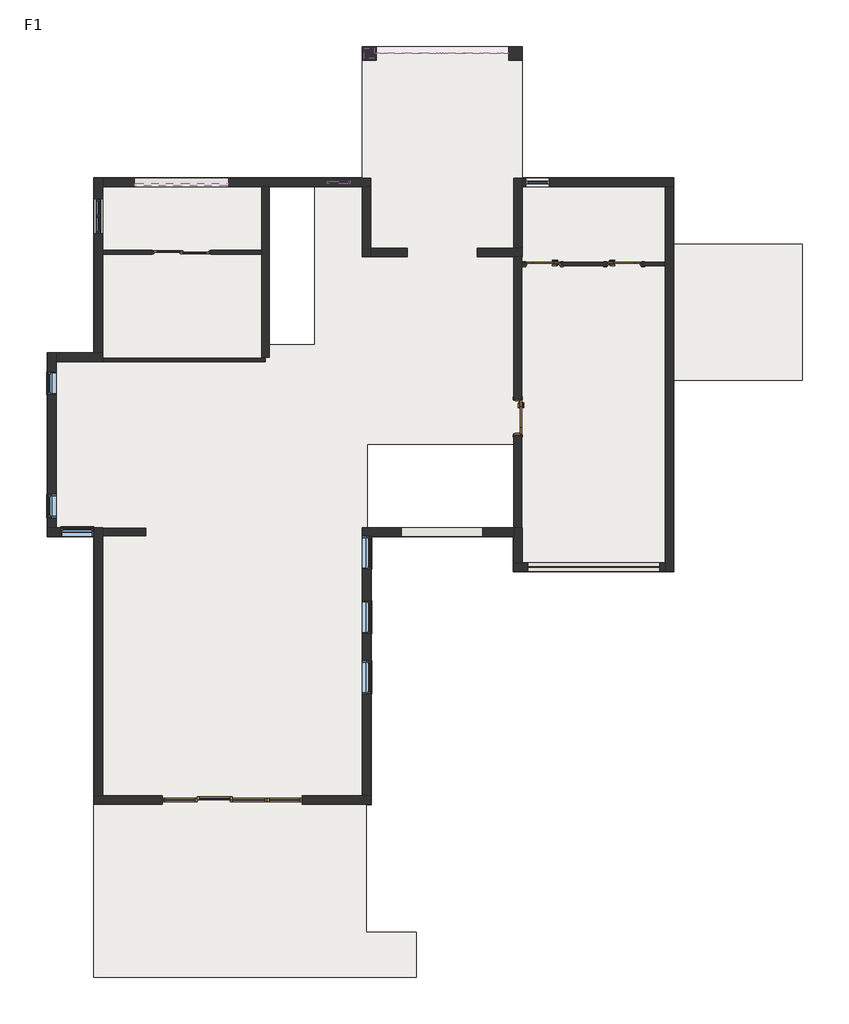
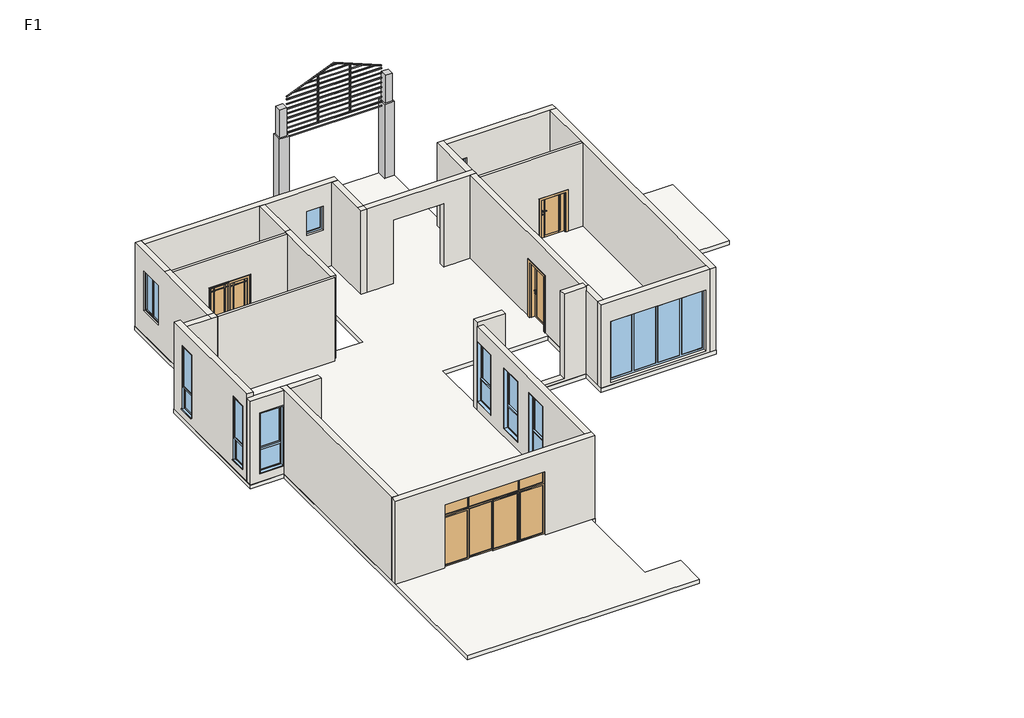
# One storey, incomplete: 22 walls, 11 windows, 5 doors, 2 columns, 2 proxies, 1 slab.
"""IFC4 building model written with IfcOpenShell, lengths in millimetres."""

from ifc_helpers import new_model, si_unit, frame, origin, origin_with_axes, place, context, project, spatial, polyline, outline, extrude, faceted_brep, transform, mapped, element, save
from components import specialty_equipment_41b99d19, specialty_equipment_643cab9b, column_69935251, door_0915_3157fd55, door_0915_0a5b4c04, door_1500_x_2100mm_4734d329, door_900_x_2100_mm_dda2772b, ym3627_ym3624_cbced519, window_d0687fa4, c0615_c0609_9743c050, c0615_c0615_013a5557, c0624_07807a0b, c0823_02c6a616, c0915_c0915_c0da6e5c, c3423_bdca7cff

model = new_model("IFC4")

# Units and contexts
model_context = context("Model", 3, world=origin())
ifc_project = project(units=[si_unit("LENGTHUNIT", "METRE", prefix="MILLI")], contexts=[model_context])

# Site, building, storey
site = spatial("IfcSite", under=ifc_project)
building = spatial("IfcBuilding", under=site)
storey = spatial("IfcBuildingStorey", under=building, Name="F1", Elevation=0.0)

# Proxies
placement = place(None, origin())
specialty_equipment_shape = specialty_equipment_41b99d19(model_context)
element("IfcBuildingElementProxy", 1, Name="小立柱 : 小立柱", ObjectType="小立柱 : 小立柱", at=placement, inside=storey, context=model_context, shape_type="MappedRepresentation", body=[
    mapped(specialty_equipment_shape, transform((0.0, 0.0, 0.0), x_axis=(1.0, 0.0, 0.0), y_axis=(0.0, 1.0, 0.0), z_axis=(0.0, 0.0, 1.0))),
])
specialty_equipment_2_shape = specialty_equipment_643cab9b(model_context)
element("IfcBuildingElementProxy", 2, Name="栅格 : 栅格", ObjectType="栅格 : 栅格", at=placement, inside=storey, context=model_context, shape_type="MappedRepresentation", body=[
    mapped(specialty_equipment_2_shape, transform((0.0, 0.0, 0.0), x_axis=(1.0, 0.0, 0.0), y_axis=(0.0, 1.0, 0.0), z_axis=(0.0, 0.0, 1.0))),
])

# Columns
column_shape = column_69935251(model_context)
element("IfcColumn", 3, ObjectType="矩形柱 : 350立柱", at=placement, inside=storey, context=model_context, shape_type="MappedRepresentation", body=[
    mapped(column_shape, transform((-9880.9782681, 3793.9713095, 0.0), x_axis=(1.0, 0.0, 0.0), y_axis=(0.0, 1.0, 0.0), z_axis=(0.0, 0.0, 1.0))),
])
element("IfcColumn", 4, ObjectType="矩形柱 : 350立柱", at=placement, inside=storey, context=model_context, shape_type="MappedRepresentation", body=[
    mapped(column_shape, transform((-6120.9782681, 3793.9713095, 0.0), x_axis=(1.0, 0.0, 0.0), y_axis=(0.0, 1.0, 0.0), z_axis=(0.0, 0.0, 1.0))),
])

# Doors
door_0915_shape = door_0915_3157fd55(model_context)
element("IfcDoor", 5, ObjectType="单扇平开门-木门 : 0915", at=placement, inside=storey, context=model_context, shape_type="MappedRepresentation", body=[
    mapped(door_0915_shape, transform((-3315.9782681, -1631.0286905, 0.0), x_axis=(1.0, 0.0, 0.0), y_axis=(0.0, 1.0, 0.0), z_axis=(0.0, 0.0, 1.0))),
])
door_0915_2_shape = door_0915_0a5b4c04(model_context)
element("IfcDoor", 6, ObjectType="单扇平开门-木门 : 0915", at=placement, inside=storey, context=model_context, shape_type="MappedRepresentation", body=[
    mapped(door_0915_2_shape, transform((-5405.9782681, -1631.0286905, 0.0), x_axis=(-1.0, 0.0, 0.0), y_axis=(0.0, -1.0, 0.0), z_axis=(0.0, 0.0, 1.0))),
])
door_1500_x_2100mm_shape = door_1500_x_2100mm_4734d329(model_context)
element("IfcDoor", 7, ObjectType="双扇推拉门 : 1500 x 2100mm", at=placement, inside=storey, context=model_context, shape_type="MappedRepresentation", body=[
    mapped(door_1500_x_2100mm_shape, transform((-14715.9782681, -1331.0286905, 0.0), x_axis=(-1.0, 0.0, 0.0), y_axis=(0.0, -1.0, 0.0), z_axis=(0.0, 0.0, 1.0))),
])
door_900_x_2100_mm_shape = door_900_x_2100_mm_dda2772b(model_context)
element("IfcDoor", 8, ObjectType="单扇平开门-木门 : 900 x 2100 mm", at=placement, inside=storey, context=model_context, shape_type="MappedRepresentation", body=[
    mapped(door_900_x_2100_mm_shape, transform((-6055.9782681, -5571.0286905, 0.0), x_axis=(0.0, -1.0, 0.0), y_axis=(1.0, 0.0, 0.0), z_axis=(0.0, 0.0, 1.0))),
])
ym3627_ym3624_shape = ym3627_ym3624_cbced519(model_context)
element("IfcDoor", 9, ObjectType="YM3627 : YM3624", at=placement, inside=storey, context=model_context, shape_type="MappedRepresentation", body=[
    mapped(ym3627_ym3624_shape, transform((-13405.9782681, -15431.0286905, 0.0), x_axis=(-1.0, 0.0, 0.0), y_axis=(0.0, -1.0, 0.0), z_axis=(0.0, 0.0, 1.0))),
])

# Slab
element("IfcSlab", 10, ObjectType="常规 - 150mm", at=placement, inside=storey, context=model_context, shape_type="SweptSolid", body=[
    extrude(outline(polyline([(-16975.9782681, 588.9713095), (-10055.9782681, 588.9713095), (-10055.9782681, 3968.9713095), (-5945.9782681, 3968.9713095), (-5945.9782681, 588.9713095), (-2035.9782681, 588.9713095), (-2035.9782681, -1118.8242174), (1264.0217319, -1118.8242174), (1264.0217319, -4618.8242174), (-2035.9782681, -4618.8242174), (-2035.9782681, -9551.0286905), (-6175.9782681, -9551.0286905), (-6175.9782681, -8651.0286905), (-9835.9782681, -8651.0286905), (-9835.9782681, -15551.0286905), (-9955.9782681, -15551.0286905), (-9955.9782681, -18831.0286905), (-8675.9782681, -18831.0286905), (-8675.9782681, -20001.0286905), (-16975.9782681, -20001.0286905), (-16975.9782681, -8651.0286905), (-18175.9782681, -8651.0286905), (-18175.9782681, -3911.0286905), (-16975.9782681, -3911.0286905), (-16975.9782681, 588.9713095)]), holes=[polyline([(-6175.9782681, -6281.0286905), (-9925.9782681, -6281.0286905), (-9925.9782681, -8411.0286905), (-6175.9782681, -8411.0286905), (-6175.9782681, -6281.0286905)]), polyline([(-12455.9782681, -3691.0286905), (-11291.3782681, -3691.0286905), (-11291.3782681, 358.9713095), (-12455.9782681, 358.9713095), (-12455.9782681, -3691.0286905)])]), frame((0.0, 0.0, -150.0), z_axis=(0.0, 0.0, 1.0), x_axis=(1.0, 0.0, 0.0)), (0.0, 0.0, 1.0), 150.0),
])

# Walls
element("IfcWall", 11, ObjectType="F1楼层", at=placement, inside=storey, context=model_context, shape_type="Brep", body=[
    faceted_brep([(-16965.9782681, -15321.0286905, 0.0), (-16965.9782681, -15321.0286905, 3150.0), (-16745.9782681, -15321.0286905, 3150.0), (-10065.9782681, -15321.0286905, 3150.0), (-9845.9782681, -15321.0286905, 3150.0), (-9845.9782681, -15321.0286905, 0.0), (-10065.9782681, -15321.0286905, 0.0), (-11605.9782681, -15321.0286905, 0.0), (-11605.9782681, -15321.0286905, 2400.0), (-15205.9782681, -15321.0286905, 2400.0), (-15205.9782681, -15321.0286905, 0.0), (-16745.9782681, -15321.0286905, 0.0), (-16965.9782681, -15541.0286905, 3150.0), (-16965.9782681, -15541.0286905, 0.0), (-15205.9782681, -15541.0286905, 0.0), (-15205.9782681, -15541.0286905, 2400.0), (-11605.9782681, -15541.0286905, 2400.0), (-11605.9782681, -15541.0286905, 0.0), (-9845.9782681, -15541.0286905, 0.0), (-9845.9782681, -15541.0286905, 3150.0)], [[[0, 1, 2, 3, 4, 5, 6, 7, 8, 9, 10, 11]], [[12, 13, 14, 15, 16, 17, 18, 19]], [[13, 0, 11, 10, 14]], [[5, 18, 17, 7, 6]], [[1, 0, 13, 12]], [[5, 4, 19, 18]], [[16, 8, 7, 17]], [[8, 16, 15, 9]], [[9, 15, 14, 10]], [[4, 3, 2, 1, 12, 19]]]),
])
element("IfcWall", 12, ObjectType="F1楼层", at=placement, inside=storey, context=model_context, shape_type="Brep", body=[
    faceted_brep([(-16745.9782681, -15321.0286905, 0.0), (-16745.9782681, -8631.0286905, 0.0), (-16745.9782681, -8431.0286905, 0.0), (-16745.9782681, -8421.0286905, 0.0), (-16745.9782681, -8421.0286905, 3150.0), (-16745.9782681, -8431.0286905, 3150.0), (-16745.9782681, -8631.0286905, 3150.0), (-16745.9782681, -15321.0286905, 3150.0), (-16965.9782681, -15321.0286905, 0.0), (-16965.9782681, -15321.0286905, 3150.0), (-16965.9782681, -8641.0286905, 3150.0), (-16965.9782681, -8421.0286905, 3150.0), (-16965.9782681, -8421.0286905, 0.0), (-16965.9782681, -8641.0286905, 0.0)], [[[0, 1, 2, 3, 4, 5, 6, 7]], [[8, 9, 10, 11, 12, 13]], [[3, 2, 1, 0, 8, 13, 12]], [[0, 7, 9, 8]], [[4, 3, 12, 11]], [[7, 6, 5, 4, 11, 10, 9]]]),
])
element("IfcWall", 13, ObjectType="F1楼层", at=placement, inside=storey, context=model_context, shape_type="Brep", body=[
    faceted_brep([(-16965.9782681, -8421.0286905, 0.0), (-17945.9782681, -8421.0286905, 0.0), (-18165.9782681, -8421.0286905, 0.0), (-18165.9782681, -8421.0286905, 3150.0), (-16975.9782681, -8421.0286905, 3150.0), (-16965.9782681, -8421.0286905, 3150.0), (-16975.9782681, -8421.0286905, 2600.0), (-17825.9782681, -8421.0286905, 2600.0), (-17825.9782681, -8421.0286905, 300.0), (-16975.9782681, -8421.0286905, 300.0), (-16965.9782681, -8641.0286905, 0.0), (-16965.9782681, -8641.0286905, 3150.0), (-16975.9782681, -8641.0286905, 3150.0), (-18165.9782681, -8641.0286905, 3150.0), (-18165.9782681, -8641.0286905, 0.0), (-16975.9782681, -8641.0286905, 2600.0), (-16975.9782681, -8641.0286905, 300.0), (-17825.9782681, -8641.0286905, 300.0), (-17825.9782681, -8641.0286905, 2600.0)], [[[0, 1, 2, 3, 4, 5], [6, 7, 8, 9]], [[10, 11, 12, 13, 14], [15, 16, 17, 18]], [[2, 1, 0, 10, 14]], [[0, 5, 11, 10]], [[3, 2, 14, 13]], [[16, 15, 6, 9]], [[17, 16, 9, 8]], [[18, 17, 8, 7]], [[15, 18, 7, 6]], [[4, 3, 13, 12]], [[5, 4, 12, 11]]]),
])
element("IfcWall", 14, ObjectType="F1楼层", at=placement, inside=storey, context=model_context, shape_type="Brep", body=[
    faceted_brep([(-17945.9782681, -8421.0286905, 0.0), (-17945.9782681, -4141.0286905, 0.0), (-17945.9782681, -3921.0286905, 0.0), (-17945.9782681, -3921.0286905, 3150.0), (-17945.9782681, -3921.0286905, 3300.0), (-17945.9782681, -8421.0286905, 3300.0), (-17945.9782681, -4401.0286905, 2700.0), (-17945.9782681, -4401.0286905, 300.0), (-17945.9782681, -5001.0286905, 300.0), (-17945.9782681, -5001.0286905, 2700.0), (-17945.9782681, -7561.0286905, 2700.0), (-17945.9782681, -7561.0286905, 300.0), (-17945.9782681, -8161.0286905, 300.0), (-17945.9782681, -8161.0286905, 2700.0), (-18165.9782681, -8421.0286905, 0.0), (-18165.9782681, -8421.0286905, 3150.0), (-18165.9782681, -8421.0286905, 3300.0), (-18165.9782681, -3921.0286905, 3300.0), (-18165.9782681, -3921.0286905, 0.0), (-18165.9782681, -4401.0286905, 2700.0), (-18165.9782681, -5001.0286905, 2700.0), (-18165.9782681, -5001.0286905, 300.0), (-18165.9782681, -4401.0286905, 300.0), (-18165.9782681, -7561.0286905, 2700.0), (-18165.9782681, -8161.0286905, 2700.0), (-18165.9782681, -8161.0286905, 300.0), (-18165.9782681, -7561.0286905, 300.0)], [[[0, 1, 2, 3, 4, 5], [6, 7, 8, 9], [10, 11, 12, 13]], [[14, 15, 16, 17, 18], [19, 20, 21, 22], [23, 24, 25, 26]], [[2, 1, 0, 14, 18]], [[5, 4, 17, 16]], [[0, 5, 16, 15, 14]], [[4, 3, 2, 18, 17]], [[7, 6, 19, 22]], [[8, 7, 22, 21]], [[9, 8, 21, 20]], [[6, 9, 20, 19]], [[11, 10, 23, 26]], [[12, 11, 26, 25]], [[13, 12, 25, 24]], [[10, 13, 24, 23]]]),
])
element("IfcWall", 15, ObjectType="F1楼层", at=placement, inside=storey, context=model_context, shape_type="Brep", body=[
    faceted_brep([(-17945.9782681, -4141.0286905, 0.0), (-16745.9782681, -4141.0286905, 0.0), (-16745.9782681, -4141.0286905, 3150.0), (-16975.9782681, -4141.0286905, 3150.0), (-17945.9782681, -4141.0286905, 3150.0), (-17945.9782681, -3921.0286905, 0.0), (-17945.9782681, -3921.0286905, 3150.0), (-16975.9782681, -3921.0286905, 3150.0), (-16965.9782681, -3921.0286905, 3150.0), (-16745.9782681, -3921.0286905, 3150.0), (-16745.9782681, -3921.0286905, 0.0), (-16965.9782681, -3921.0286905, 0.0), (-16745.9782681, -4051.0286905, 0.0), (-16745.9782681, -4051.0286905, 3150.0)], [[[0, 1, 2, 3, 4]], [[5, 6, 7, 8, 9, 10, 11]], [[1, 0, 5, 11, 10, 12]], [[0, 4, 6, 5]], [[2, 1, 12, 10, 9, 13]], [[4, 3, 7, 6]], [[3, 2, 13, 9, 8, 7]]]),
])
element("IfcWall", 16, ObjectType="F1楼层", at=placement, inside=storey, context=model_context, shape_type="Brep", body=[
    faceted_brep([(-16745.9782681, -3921.0286905, 0.0), (-16745.9782681, -1381.0286905, 0.0), (-16745.9782681, -1281.0286905, 0.0), (-16745.9782681, 358.9713095, 0.0), (-16745.9782681, 578.9713095, 0.0), (-16745.9782681, 578.9713095, 3150.0), (-16745.9782681, 358.9713095, 3150.0), (-16745.9782681, -1221.0286905, 3150.0), (-16745.9782681, -1281.0286905, 3150.0), (-16745.9782681, -1381.0286905, 3150.0), (-16745.9782681, -3921.0286905, 3150.0), (-16745.9782681, -851.0286905, 900.0), (-16745.9782681, -851.0286905, 2400.0), (-16745.9782681, 48.9713095, 2400.0), (-16745.9782681, 48.9713095, 900.0), (-16965.9782681, -3921.0286905, 0.0), (-16965.9782681, -3921.0286905, 3150.0), (-16965.9782681, -1221.0286905, 3150.0), (-16965.9782681, 578.9713095, 3150.0), (-16965.9782681, 578.9713095, 0.0), (-16965.9782681, -851.0286905, 900.0), (-16965.9782681, 48.9713095, 900.0), (-16965.9782681, 48.9713095, 2400.0), (-16965.9782681, -851.0286905, 2400.0)], [[[0, 1, 2, 3, 4, 5, 6, 7, 8, 9, 10], [11, 12, 13, 14]], [[15, 16, 17, 18, 19], [20, 21, 22, 23]], [[4, 3, 2, 1, 0, 15, 19]], [[0, 10, 16, 15]], [[5, 4, 19, 18]], [[12, 11, 20, 23]], [[13, 12, 23, 22]], [[14, 13, 22, 21]], [[11, 14, 21, 20]], [[7, 6, 5, 18, 17]], [[10, 9, 8, 7, 17, 16]]]),
])
element("IfcWall", 17, ObjectType="F1楼层", at=placement, inside=storey, context=model_context, shape_type="Brep", body=[
    faceted_brep([(-16745.9782681, 358.9713095, 0.0), (-12655.9782681, 358.9713095, 0.0), (-12455.9782681, 358.9713095, 0.0), (-10065.9782681, 358.9713095, 0.0), (-9845.9782681, 358.9713095, 0.0), (-9845.9782681, 358.9713095, 3150.0), (-10065.9782681, 358.9713095, 3150.0), (-12455.9782681, 358.9713095, 3150.0), (-12655.9782681, 358.9713095, 3150.0), (-16745.9782681, 358.9713095, 3150.0), (-10965.9782681, 358.9713095, 1450.0), (-10965.9782681, 358.9713095, 2350.0), (-10365.9782681, 358.9713095, 2350.0), (-10365.9782681, 358.9713095, 1450.0), (-13515.9782681, 358.9713095, 1200.0), (-15915.9782681, 358.9713095, 1200.0), (-15915.9782681, 358.9713095, 1800.0), (-13515.9782681, 358.9713095, 1800.0), (-16745.9782681, 578.9713095, 0.0), (-16745.9782681, 578.9713095, 3150.0), (-9845.9782681, 578.9713095, 3150.0), (-9845.9782681, 578.9713095, 0.0), (-10965.9782681, 578.9713095, 1450.0), (-10365.9782681, 578.9713095, 1450.0), (-10365.9782681, 578.9713095, 2350.0), (-10965.9782681, 578.9713095, 2350.0), (-13515.9782681, 578.9713095, 1200.0), (-13515.9782681, 578.9713095, 1800.0), (-15915.9782681, 578.9713095, 1800.0), (-15915.9782681, 578.9713095, 1200.0)], [[[0, 1, 2, 3, 4, 5, 6, 7, 8, 9], [10, 11, 12, 13], [14, 15, 16, 17]], [[18, 19, 20, 21], [22, 23, 24, 25], [26, 27, 28, 29]], [[4, 3, 2, 1, 0, 18, 21]], [[9, 8, 7, 6, 5, 20, 19]], [[0, 9, 19, 18]], [[5, 4, 21, 20]], [[11, 10, 22, 25]], [[12, 11, 25, 24]], [[13, 12, 24, 23]], [[10, 13, 23, 22]], [[27, 26, 14, 17]], [[28, 27, 17, 16]], [[29, 28, 16, 15]], [[26, 29, 15, 14]]]),
])
element("IfcWall", 18, ObjectType="F1楼层", at=placement, inside=storey, context=model_context, shape_type="Brep", body=[
    faceted_brep([(-10065.9782681, 358.9713095, 0.0), (-10065.9782681, -1441.0286905, 0.0), (-10065.9782681, -1441.0286905, 3150.0), (-10065.9782681, -1221.0286905, 3150.0), (-10065.9782681, 358.9713095, 3150.0), (-9845.9782681, 358.9713095, 0.0), (-9845.9782681, 358.9713095, 3150.0), (-9845.9782681, -1221.0286905, 3150.0), (-9845.9782681, -1441.0286905, 3150.0), (-9845.9782681, -1441.0286905, 0.0), (-9845.9782681, -1221.0286905, 0.0)], [[[0, 1, 2, 3, 4]], [[5, 6, 7, 8, 9, 10]], [[1, 0, 5, 10, 9]], [[0, 4, 6, 5]], [[2, 1, 9, 8]], [[4, 3, 7, 6]], [[3, 2, 8, 7]]]),
])
element("IfcWall", 19, ObjectType="F1楼层", at=placement, inside=storey, context=model_context, shape_type="Brep", body=[
    faceted_brep([(-9845.9782681, -1441.0286905, 3150.0), (-9845.9782681, -1441.0286905, 0.0), (-8905.9782681, -1441.0286905, 0.0), (-8905.9782681, -1441.0286905, 2400.0), (-7105.9782681, -1441.0286905, 2400.0), (-7105.9782681, -1441.0286905, 0.0), (-6155.9782681, -1441.0286905, 0.0), (-5955.9782681, -1441.0286905, 0.0), (-5945.9782681, -1441.0286905, 0.0), (-5945.9782681, -1441.0286905, 3150.0), (-5955.9782681, -1441.0286905, 3150.0), (-6155.9782681, -1441.0286905, 3150.0), (-9845.9782681, -1221.0286905, 0.0), (-9845.9782681, -1221.0286905, 3150.0), (-6175.9782681, -1221.0286905, 3150.0), (-6165.9782681, -1221.0286905, 3150.0), (-5945.9782681, -1221.0286905, 3150.0), (-5945.9782681, -1221.0286905, 0.0), (-6165.9782681, -1221.0286905, 0.0), (-7105.9782681, -1221.0286905, 0.0), (-7105.9782681, -1221.0286905, 2400.0), (-8905.9782681, -1221.0286905, 2400.0), (-8905.9782681, -1221.0286905, 0.0)], [[[0, 1, 2, 3, 4, 5, 6, 7, 8, 9, 10, 11]], [[12, 13, 14, 15, 16, 17, 18, 19, 20, 21, 22]], [[1, 12, 22, 2]], [[17, 8, 7, 6, 5, 19, 18]], [[1, 0, 13, 12]], [[9, 8, 17, 16]], [[4, 20, 19, 5]], [[20, 4, 3, 21]], [[21, 3, 2, 22]], [[13, 0, 11, 10, 9, 16, 15, 14]]]),
])
element("IfcWall", 20, ObjectType="F1楼层", at=placement, inside=storey, context=model_context, shape_type="Brep", body=[
    faceted_brep([(-5945.9782681, -1221.0286905, 0.0), (-5945.9782681, 358.9713095, 0.0), (-5945.9782681, 578.9713095, 0.0), (-5945.9782681, 578.9713095, 3150.0), (-5945.9782681, 358.9713095, 3150.0), (-5945.9782681, -1221.0286905, 3150.0), (-6165.9782681, -1221.0286905, 0.0), (-6165.9782681, -1221.0286905, 3150.0), (-6165.9782681, 578.9713095, 3150.0), (-6165.9782681, 578.9713095, 0.0)], [[[0, 1, 2, 3, 4, 5]], [[6, 7, 8, 9]], [[2, 1, 0, 6, 9]], [[0, 5, 7, 6]], [[3, 2, 9, 8]], [[5, 4, 3, 8, 7]]]),
])
element("IfcWall", 21, ObjectType="F1楼层", at=placement, inside=storey, context=model_context, shape_type="Brep", body=[
    faceted_brep([(-5945.9782681, 358.9713095, 0.0), (-2265.9782681, 358.9713095, 0.0), (-2045.9782681, 358.9713095, 0.0), (-2045.9782681, 358.9713095, 3150.0), (-2265.9782681, 358.9713095, 3150.0), (-5945.9782681, 358.9713095, 3150.0), (-5245.9782681, 358.9713095, 2400.0), (-5245.9782681, 358.9713095, 900.0), (-5845.9782681, 358.9713095, 900.0), (-5845.9782681, 358.9713095, 2400.0), (-2045.9782681, 578.9713095, 0.0), (-5945.9782681, 578.9713095, 0.0), (-5945.9782681, 578.9713095, 3150.0), (-2045.9782681, 578.9713095, 3150.0), (-5245.9782681, 578.9713095, 900.0), (-5245.9782681, 578.9713095, 2400.0), (-5845.9782681, 578.9713095, 2400.0), (-5845.9782681, 578.9713095, 900.0)], [[[0, 1, 2, 3, 4, 5], [6, 7, 8, 9]], [[10, 11, 12, 13], [14, 15, 16, 17]], [[2, 1, 0, 11, 10]], [[0, 5, 12, 11]], [[3, 2, 10, 13]], [[5, 4, 3, 13, 12]], [[14, 7, 6, 15]], [[16, 9, 8, 17]], [[7, 14, 17, 8]], [[9, 16, 15, 6]]]),
])
element("IfcWall", 22, ObjectType="F1楼层", at=placement, inside=storey, context=model_context, shape_type="Brep", body=[
    faceted_brep([(-2265.9782681, 358.9713095, 0.0), (-2265.9782681, -1581.0286905, 0.0), (-2265.9782681, -1681.0286905, 0.0), (-2265.9782681, -9321.0286905, 0.0), (-2265.9782681, -9541.0286905, 0.0), (-2265.9782681, -9541.0286905, 3150.0), (-2265.9782681, -9321.0286905, 3150.0), (-2265.9782681, -1681.0286905, 3150.0), (-2265.9782681, -1581.0286905, 3150.0), (-2265.9782681, 358.9713095, 3150.0), (-2045.9782681, 358.9713095, 0.0), (-2045.9782681, 358.9713095, 3150.0), (-2045.9782681, -9541.0286905, 3150.0), (-2045.9782681, -9541.0286905, 0.0)], [[[0, 1, 2, 3, 4, 5, 6, 7, 8, 9]], [[10, 11, 12, 13]], [[4, 3, 2, 1, 0, 10, 13]], [[0, 9, 11, 10]], [[5, 4, 13, 12]], [[9, 8, 7, 6, 5, 12, 11]]]),
])
element("IfcWall", 23, ObjectType="F1楼层", at=placement, inside=storey, context=model_context, shape_type="Brep", body=[
    faceted_brep([(-2265.9782681, -9321.0286905, 0.0), (-5945.9782681, -9321.0286905, 0.0), (-6165.9782681, -9321.0286905, 0.0), (-6165.9782681, -9321.0286905, 3150.0), (-5945.9782681, -9321.0286905, 3150.0), (-2265.9782681, -9321.0286905, 3150.0), (-5805.9782681, -9321.0286905, 2400.0), (-5805.9782681, -9321.0286905, 100.0), (-2405.9782681, -9321.0286905, 100.0), (-2405.9782681, -9321.0286905, 2400.0), (-6165.9782681, -9541.0286905, 0.0), (-2265.9782681, -9541.0286905, 0.0), (-2265.9782681, -9541.0286905, 3150.0), (-6165.9782681, -9541.0286905, 3150.0), (-5805.9782681, -9541.0286905, 100.0), (-5805.9782681, -9541.0286905, 2400.0), (-2405.9782681, -9541.0286905, 2400.0), (-2405.9782681, -9541.0286905, 100.0)], [[[0, 1, 2, 3, 4, 5], [6, 7, 8, 9]], [[10, 11, 12, 13], [14, 15, 16, 17]], [[2, 1, 0, 11, 10]], [[0, 5, 12, 11]], [[3, 2, 10, 13]], [[14, 7, 6, 15]], [[15, 6, 9, 16]], [[16, 9, 8, 17]], [[7, 14, 17, 8]], [[5, 4, 3, 13, 12]]]),
])
element("IfcWall", 24, ObjectType="F1楼层", at=placement, inside=storey, context=model_context, shape_type="Brep", body=[
    faceted_brep([(-5945.9782681, -9321.0286905, 0.0), (-5945.9782681, -8421.0286905, 0.0), (-5945.9782681, -8421.0286905, 3150.0), (-5945.9782681, -9321.0286905, 3150.0), (-6165.9782681, -9321.0286905, 0.0), (-6165.9782681, -9321.0286905, 3150.0), (-6165.9782681, -8421.0286905, 3150.0), (-6165.9782681, -8421.0286905, 0.0), (-6165.9782681, -8641.0286905, 0.0), (-6155.9782681, -8421.0286905, 0.0), (-5955.9782681, -8421.0286905, 0.0), (-6155.9782681, -8421.0286905, 3150.0), (-5955.9782681, -8421.0286905, 3150.0)], [[[0, 1, 2, 3]], [[4, 5, 6, 7, 8]], [[1, 0, 4, 8, 7, 9, 10]], [[0, 3, 5, 4]], [[2, 1, 10, 9, 7, 6, 11, 12]], [[3, 2, 12, 11, 6, 5]]]),
])
element("IfcWall", 25, ObjectType="F1楼层", at=placement, inside=storey, context=model_context, shape_type="Brep", body=[
    faceted_brep([(-6165.9782681, -8421.0286905, 0.0), (-10065.9782681, -8421.0286905, 0.0), (-10065.9782681, -8421.0286905, 3300.0), (-9055.9782681, -8421.0286905, 3300.0), (-9055.9782681, -8421.0286905, 100.0), (-6955.9782681, -8421.0286905, 100.0), (-6955.9782681, -8421.0286905, 3300.0), (-6165.9782681, -8421.0286905, 3300.0), (-6165.9782681, -8421.0286905, 3150.0), (-6165.9782681, -8641.0286905, 0.0), (-6165.9782681, -8641.0286905, 3300.0), (-6955.9782681, -8641.0286905, 3300.0), (-6955.9782681, -8641.0286905, 100.0), (-9055.9782681, -8641.0286905, 100.0), (-9055.9782681, -8641.0286905, 3300.0), (-10065.9782681, -8641.0286905, 3300.0), (-10065.9782681, -8641.0286905, 3150.0), (-10065.9782681, -8641.0286905, 2600.0), (-10065.9782681, -8641.0286905, 300.0), (-10065.9782681, -8641.0286905, 0.0), (-9845.9782681, -8641.0286905, 0.0)], [[[0, 1, 2, 3, 4, 5, 6, 7, 8]], [[9, 10, 11, 12, 13, 14, 15, 16, 17, 18, 19, 20]], [[0, 8, 7, 10, 9]], [[2, 1, 19, 18, 17, 16, 15]], [[1, 0, 9, 20, 19]], [[3, 2, 15, 14]], [[4, 3, 14, 13]], [[5, 4, 13, 12]], [[6, 5, 12, 11]], [[7, 6, 11, 10]]]),
])
element("IfcWall", 26, ObjectType="F1楼层", at=placement, inside=storey, context=model_context, shape_type="SweptSolid", body=[
    extrude(outline(polyline([(-8641.0286905, 3150.0), (-8641.0286905, 2600.0), (-9491.0286905, 2600.0), (-9491.0286905, 300.0), (-8641.0286905, 300.0), (-8641.0286905, 0.0), (-15321.0286905, 0.0), (-15321.0286905, 3150.0), (-8641.0286905, 3150.0)]), holes=[polyline([(-12701.0286905, 2600.0), (-12701.0286905, 300.0), (-11851.0286905, 300.0), (-11851.0286905, 2600.0), (-12701.0286905, 2600.0)]), polyline([(-11151.0286905, 2600.0), (-11151.0286905, 300.0), (-10301.0286905, 300.0), (-10301.0286905, 2600.0), (-11151.0286905, 2600.0)])]), frame((-10065.9782681, 0.0, 0.0), z_axis=(1.0, 0.0, 0.0), x_axis=(0.0, 1.0, 0.0)), (0.0, 0.0, 1.0), 220.0),
])
element("IfcWall", 27, ObjectType="常规 - 200mm", at=placement, inside=storey, context=model_context, shape_type="Brep", body=[
    faceted_brep([(-12655.9782681, 358.9713095, 0.0), (-12655.9782681, -1281.0286905, 0.0), (-12655.9782681, -1381.0286905, 0.0), (-12655.9782681, -4031.0286905, 0.0), (-12655.9782681, -4031.0286905, 3150.0), (-12655.9782681, -1381.0286905, 3150.0), (-12655.9782681, -1281.0286905, 3150.0), (-12655.9782681, -1221.0286905, 3150.0), (-12655.9782681, 358.9713095, 3150.0), (-12455.9782681, 358.9713095, 0.0), (-12455.9782681, 358.9713095, 3150.0), (-12455.9782681, -1221.0286905, 3150.0), (-12455.9782681, -4031.0286905, 3150.0), (-12455.9782681, -4031.0286905, 0.0)], [[[0, 1, 2, 3, 4, 5, 6, 7, 8]], [[9, 10, 11, 12, 13]], [[3, 2, 1, 0, 9, 13]], [[4, 3, 13, 12]], [[0, 8, 10, 9]], [[8, 7, 11, 10]], [[7, 6, 5, 4, 12, 11]]]),
])
element("IfcWall", 28, ObjectType="常规 - 200mm", at=placement, inside=storey, context=model_context, shape_type="SweptSolid", body=[
    extrude(outline(polyline([(-16745.9782681, -8431.0286905), (-15635.9782681, -8431.0286905), (-15635.9782681, -8631.0286905), (-16745.9782681, -8631.0286905), (-16745.9782681, -8431.0286905)])), origin_with_axes(), (0.0, 0.0, 1.0), 3150.0),
])
element("IfcWall", 29, ObjectType="常规 - 100mm 砌体", at=placement, inside=storey, context=model_context, shape_type="SweptSolid", body=[
    extrude(outline(polyline([(3150.0, -16745.9782681), (0.0, -16745.9782681), (0.0, -15465.9782681), (2100.0, -15465.9782681), (2100.0, -13965.9782681), (0.0, -13965.9782681), (0.0, -12655.9782681), (3150.0, -12655.9782681), (3150.0, -16745.9782681)])), frame((0.0, -1381.0286905, 0.0), z_axis=(0.0, 1.0, 0.0), x_axis=(0.0, 0.0, 1.0)), (0.0, 0.0, 1.0), 100.0),
])
element("IfcWall", 30, ObjectType="常规 - 100mm 砌体", at=placement, inside=storey, context=model_context, shape_type="Brep", body=[
    faceted_brep([(-16745.9782681, -4151.0286905, 0.0), (-12555.9782681, -4151.0286905, 0.0), (-12555.9782681, -4151.0286905, 3150.0), (-16745.9782681, -4151.0286905, 3150.0), (-16745.9782681, -4051.0286905, 0.0), (-16745.9782681, -4051.0286905, 3150.0), (-12555.9782681, -4051.0286905, 3150.0), (-12555.9782681, -4051.0286905, 0.0), (-16745.9782681, -4141.0286905, 0.0), (-16745.9782681, -4141.0286905, 3150.0)], [[[0, 1, 2, 3]], [[4, 5, 6, 7]], [[1, 0, 8, 4, 7]], [[2, 1, 7, 6]], [[0, 3, 9, 5, 4, 8]], [[3, 2, 6, 5, 9]]]),
])
element("IfcWall", 31, ObjectType="常规 - 200mm", at=placement, inside=storey, context=model_context, shape_type="Brep", body=[
    faceted_brep([(-6155.9782681, -1441.0286905, 3150.0), (-6155.9782681, -1441.0286905, 0.0), (-6155.9782681, -5121.0286905, 0.0), (-6155.9782681, -5121.0286905, 2100.0), (-6155.9782681, -6021.0286905, 2100.0), (-6155.9782681, -6021.0286905, 0.0), (-6155.9782681, -8421.0286905, 0.0), (-6155.9782681, -8421.0286905, 3150.0), (-5955.9782681, -1441.0286905, 0.0), (-5955.9782681, -1441.0286905, 3150.0), (-5955.9782681, -1581.0286905, 3150.0), (-5955.9782681, -1681.0286905, 3150.0), (-5955.9782681, -8421.0286905, 3150.0), (-5955.9782681, -8421.0286905, 0.0), (-5955.9782681, -6021.0286905, 0.0), (-5955.9782681, -6021.0286905, 2100.0), (-5955.9782681, -5121.0286905, 2100.0), (-5955.9782681, -5121.0286905, 0.0), (-5955.9782681, -1681.0286905, 0.0), (-5955.9782681, -1581.0286905, 0.0)], [[[0, 1, 2, 3, 4, 5, 6, 7]], [[8, 9, 10, 11, 12, 13, 14, 15, 16, 17, 18, 19]], [[1, 8, 19, 18, 17, 2]], [[13, 6, 5, 14]], [[1, 0, 9, 8]], [[7, 6, 13, 12]], [[4, 15, 14, 5]], [[15, 4, 3, 16]], [[16, 3, 2, 17]], [[7, 12, 11, 10, 9, 0]]]),
])
element("IfcWall", 32, ObjectType="常规 - 100mm 砌体", at=placement, inside=storey, context=model_context, shape_type="SweptSolid", body=[
    extrude(outline(polyline([(3150.0, -5955.9782681), (0.0, -5955.9782681), (0.0, -5855.9782681), (1500.0, -5855.9782681), (1500.0, -4955.9782681), (0.0, -4955.9782681), (0.0, -3765.9782681), (1500.0, -3765.9782681), (1500.0, -2865.9782681), (0.0, -2865.9782681), (0.0, -2265.9782681), (3150.0, -2265.9782681), (3150.0, -5955.9782681)])), frame((0.0, -1681.0286905, 0.0), z_axis=(0.0, 1.0, 0.0), x_axis=(0.0, 0.0, 1.0)), (0.0, 0.0, 1.0), 100.0),
])

# Windows
window_shape = window_d0687fa4(model_context)
element("IfcWindow", 33, ObjectType="固定窗-双扇 : 2400×600", at=placement, inside=storey, context=model_context, shape_type="MappedRepresentation", body=[
    mapped(window_shape, transform((-14715.9782681, 468.9713095, 400.0), x_axis=(-1.0, 0.0, 0.0), y_axis=(0.0, -1.0, 0.0), z_axis=(0.0, 0.0, 1.0))),
])
c0615_c0609_shape = c0615_c0609_9743c050(model_context)
element("IfcWindow", 34, ObjectType="C0615 : C0609", at=placement, inside=storey, context=model_context, shape_type="MappedRepresentation", body=[
    mapped(c0615_c0609_shape, transform((-10665.9782681, 468.9713095, 0.0), x_axis=(1.0, 0.0, 0.0), y_axis=(0.0, 1.0, 0.0), z_axis=(0.0, 0.0, 1.0))),
])
c0615_c0615_shape = c0615_c0615_013a5557(model_context)
element("IfcWindow", 35, ObjectType="C0615 : C0615", at=placement, inside=storey, context=model_context, shape_type="MappedRepresentation", body=[
    mapped(c0615_c0615_shape, transform((-5545.9782681, 468.9713095, -550.0), x_axis=(-1.0, 0.0, 0.0), y_axis=(0.0, -1.0, 0.0), z_axis=(0.0, 0.0, 1.0))),
])
c0624_shape = c0624_07807a0b(model_context)
element("IfcWindow", 36, ObjectType="上下拉窗1 : C0624", at=placement, inside=storey, context=model_context, shape_type="MappedRepresentation", body=[
    mapped(c0624_shape, transform((-18056.2167284, -4701.0286905, 0.0), x_axis=(0.0, 1.0, 0.0), y_axis=(-1.0, 0.0, 0.0), z_axis=(0.0, 0.0, 1.0))),
])
element("IfcWindow", 37, ObjectType="上下拉窗1 : C0624", at=placement, inside=storey, context=model_context, shape_type="MappedRepresentation", body=[
    mapped(c0624_shape, transform((-18056.2167284, -7861.0286905, 0.0), x_axis=(0.0, 1.0, 0.0), y_axis=(-1.0, 0.0, 0.0), z_axis=(0.0, 0.0, 1.0))),
])
c0823_shape = c0823_02c6a616(model_context)
element("IfcWindow", 38, ObjectType="上下拉窗1 : C0823", at=placement, inside=storey, context=model_context, shape_type="MappedRepresentation", body=[
    mapped(c0823_shape, transform((-17400.9782681, -8530.7902302, 0.0), x_axis=(1.0, 0.0, 0.0), y_axis=(0.0, 1.0, 0.0), z_axis=(0.0, 0.0, 1.0))),
])
element("IfcWindow", 39, ObjectType="上下拉窗1 : C0823", at=placement, inside=storey, context=model_context, shape_type="MappedRepresentation", body=[
    mapped(c0823_shape, transform((-9955.7398079, -12276.0286905, 0.0), x_axis=(0.0, -1.0, 0.0), y_axis=(1.0, 0.0, 0.0), z_axis=(0.0, 0.0, 1.0))),
])
element("IfcWindow", 40, ObjectType="上下拉窗1 : C0823", at=placement, inside=storey, context=model_context, shape_type="MappedRepresentation", body=[
    mapped(c0823_shape, transform((-9955.7398079, -10726.0286905, 0.0), x_axis=(0.0, -1.0, 0.0), y_axis=(1.0, 0.0, 0.0), z_axis=(0.0, 0.0, 1.0))),
])
element("IfcWindow", 41, ObjectType="上下拉窗1 : C0823", at=placement, inside=storey, context=model_context, shape_type="MappedRepresentation", body=[
    mapped(c0823_shape, transform((-9955.7398079, -9066.0286905, 0.0), x_axis=(0.0, -1.0, 0.0), y_axis=(1.0, 0.0, 0.0), z_axis=(0.0, 0.0, 1.0))),
])
c0915_c0915_shape = c0915_c0915_c0da6e5c(model_context)
element("IfcWindow", 42, ObjectType="C0915 : C0915", at=placement, inside=storey, context=model_context, shape_type="MappedRepresentation", body=[
    mapped(c0915_c0915_shape, transform((-16855.9782681, -401.0286905, 0.0), x_axis=(0.0, 1.0, 0.0), y_axis=(-1.0, 0.0, 0.0), z_axis=(0.0, 0.0, 1.0))),
])
c3423_shape = c3423_bdca7cff(model_context)
element("IfcWindow", 43, ObjectType="窗户 : C3423", at=placement, inside=storey, context=model_context, shape_type="MappedRepresentation", body=[
    mapped(c3423_shape, transform((-4105.9782681, -9431.0286905, -700.0), x_axis=(1.0, 0.0, 0.0), y_axis=(0.0, 1.0, 0.0), z_axis=(0.0, 0.0, 1.0))),
])

save(model, "model.ifc")
